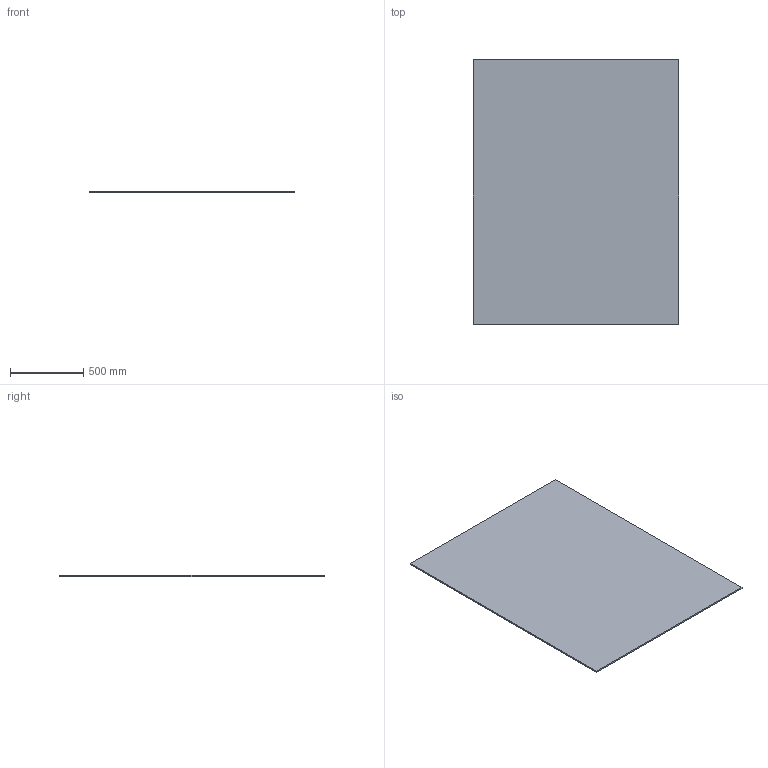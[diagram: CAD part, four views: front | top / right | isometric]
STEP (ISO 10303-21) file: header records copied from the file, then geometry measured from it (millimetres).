
FILE_DESCRIPTION(('Open CASCADE Model'),'2;1');
FILE_NAME('Open CASCADE Shape Model','2026-09-19T12:55:23',('Author'),( 'Open CASCADE'),'Open CASCADE STEP processor 7.9','Open CASCADE 7.9' ,'Unknown');
FILE_SCHEMA(('AUTOMOTIVE_DESIGN { 1 0 10303 214 1 1 1 1 }'));
Length unit declared in the file: millimetre
Products named in the file (1): Open CASCADE STEP translator 7.9 408
Bounding box: 1400 x 1800 x 10 mm (x, y, z)
Volume: 25200000 mm3; surface area: 5104000 mm2
Topology: 1 solids, 1 shells, 6 faces, 12 edges, 8 vertices
Faces by surface type: plane 6
Entity records: 322 total; most frequent: CARTESIAN_POINT 51, DIRECTION 50, LINE 36, VECTOR 36, ORIENTED_EDGE 24, PCURVE 24, DEFINITIONAL_REPRESENTATION 24, EDGE_CURVE 12
